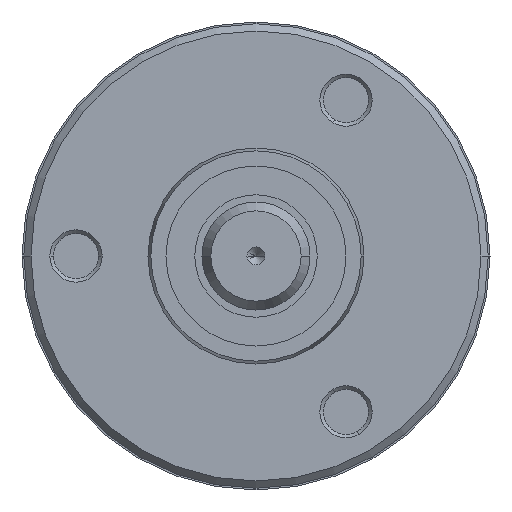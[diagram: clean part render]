
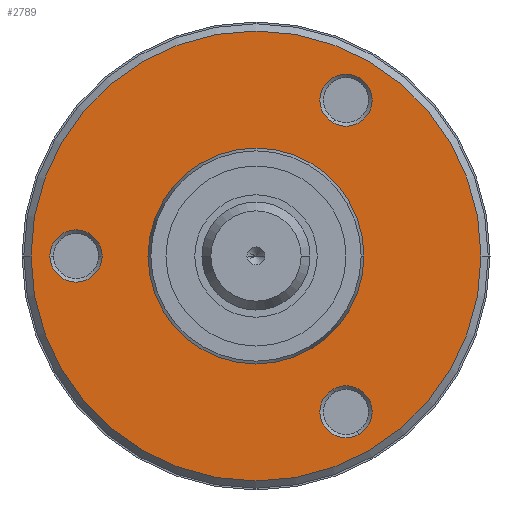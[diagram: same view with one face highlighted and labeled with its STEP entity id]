
A CAD part, left-side view. The second image highlights one B-rep face of the part: STEP entity #2789.
In plain terms, the highlighted planar face has unit normal (-1, 0, 0).
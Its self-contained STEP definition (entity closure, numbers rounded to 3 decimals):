
#630=CARTESIAN_POINT('',(0.,0.,0.));
#631=DIRECTION('',(-1.,0.,0.));
#632=DIRECTION('',(0.,1.,0.));
#633=AXIS2_PLACEMENT_3D('',#630,#631,#632);
#638=CARTESIAN_POINT('',(0.,0.,0.));
#639=DIRECTION('',(-1.,0.,0.));
#640=DIRECTION('',(0.,-1.,0.));
#641=AXIS2_PLACEMENT_3D('',#638,#639,#640);
#646=CARTESIAN_POINT('',(0.,5.,0.));
#647=DIRECTION('',(-1.,0.,0.));
#648=DIRECTION('',(0.,1.,0.));
#649=AXIS2_PLACEMENT_3D('',#646,#647,#648);
#654=CARTESIAN_POINT('',(0.,5.,0.));
#655=DIRECTION('',(-1.,0.,0.));
#656=DIRECTION('',(0.,-1.,0.));
#657=AXIS2_PLACEMENT_3D('',#654,#655,#656);
#662=CARTESIAN_POINT('',(0.,-2.5,4.33));
#663=DIRECTION('',(-1.,0.,0.));
#664=DIRECTION('',(0.,-0.5,0.866));
#665=AXIS2_PLACEMENT_3D('',#662,#663,#664);
#670=CARTESIAN_POINT('',(0.,-2.5,4.33));
#671=DIRECTION('',(-1.,0.,0.));
#672=DIRECTION('',(0.,0.5,-0.866));
#673=AXIS2_PLACEMENT_3D('',#670,#671,#672);
#678=CARTESIAN_POINT('',(0.,-2.5,-4.33));
#679=DIRECTION('',(-1.,0.,0.));
#680=DIRECTION('',(0.,-0.5,-0.866));
#681=AXIS2_PLACEMENT_3D('',#678,#679,#680);
#686=CARTESIAN_POINT('',(0.,-2.5,-4.33));
#687=DIRECTION('',(-1.,0.,0.));
#688=DIRECTION('',(0.,0.5,0.866));
#689=AXIS2_PLACEMENT_3D('',#686,#687,#688);
#709=CARTESIAN_POINT('',(0.,0.,0.));
#710=DIRECTION('',(-1.,0.,0.));
#711=DIRECTION('',(0.,1.,0.));
#712=AXIS2_PLACEMENT_3D('',#709,#710,#711);
#778=CARTESIAN_POINT('',(0.,0.,0.));
#779=DIRECTION('',(1.,0.,0.));
#780=DIRECTION('',(0.,1.,0.));
#781=AXIS2_PLACEMENT_3D('',#778,#779,#780);
#1954=CARTESIAN_POINT('',(0.,3.,0.));
#1955=CARTESIAN_POINT('',(0.,-3.,0.));
#1956=VERTEX_POINT('',#1954);
#1957=VERTEX_POINT('',#1955);
#1966=CARTESIAN_POINT('',(0.,5.725,0.));
#1967=CARTESIAN_POINT('',(0.,4.275,0.));
#1968=VERTEX_POINT('',#1966);
#1969=VERTEX_POINT('',#1967);
#1974=CARTESIAN_POINT('',(0.,-2.863,4.958));
#1975=CARTESIAN_POINT('',(0.,-2.138,3.702));
#1976=VERTEX_POINT('',#1974);
#1977=VERTEX_POINT('',#1975);
#1982=CARTESIAN_POINT('',(0.,-2.863,-4.958));
#1983=CARTESIAN_POINT('',(0.,-2.138,-3.702));
#1984=VERTEX_POINT('',#1982);
#1985=VERTEX_POINT('',#1983);
#1994=CARTESIAN_POINT('',(0.,6.25,0.));
#1995=CARTESIAN_POINT('',(0.,-6.25,0.));
#1996=VERTEX_POINT('',#1994);
#1997=VERTEX_POINT('',#1995);
#2755=CARTESIAN_POINT('',(0.,0.,0.));
#2756=DIRECTION('',(-1.,0.,0.));
#2757=DIRECTION('',(0.,1.,0.));
#2758=AXIS2_PLACEMENT_3D('',#2755,#2756,#2757);
#2759=PLANE('',#2758);
#2761=ORIENTED_EDGE('',*,*,#2760,.F.);
#2762=ORIENTED_EDGE('',*,*,#2745,.F.);
#2763=EDGE_LOOP('',(#2761,#2762));
#2764=FACE_OUTER_BOUND('',#2763,.F.);
#2766=ORIENTED_EDGE('',*,*,#2765,.T.);
#2768=ORIENTED_EDGE('',*,*,#2767,.F.);
#2769=EDGE_LOOP('',(#2766,#2768));
#2770=FACE_BOUND('',#2769,.F.);
#2772=ORIENTED_EDGE('',*,*,#2771,.T.);
#2774=ORIENTED_EDGE('',*,*,#2773,.T.);
#2775=EDGE_LOOP('',(#2772,#2774));
#2776=FACE_BOUND('',#2775,.F.);
#2778=ORIENTED_EDGE('',*,*,#2777,.T.);
#2780=ORIENTED_EDGE('',*,*,#2779,.T.);
#2781=EDGE_LOOP('',(#2778,#2780));
#2782=FACE_BOUND('',#2781,.F.);
#2784=ORIENTED_EDGE('',*,*,#2783,.T.);
#2786=ORIENTED_EDGE('',*,*,#2785,.T.);
#2787=EDGE_LOOP('',(#2784,#2786));
#2788=FACE_BOUND('',#2787,.F.);
#2789=ADVANCED_FACE('',(#2764,#2770,#2776,#2782,#2788),#2759,.T.);
#634=CIRCLE('',#633,6.25);
#642=CIRCLE('',#641,6.25);
#650=CIRCLE('',#649,0.725);
#658=CIRCLE('',#657,0.725);
#666=CIRCLE('',#665,0.725);
#674=CIRCLE('',#673,0.725);
#682=CIRCLE('',#681,0.725);
#690=CIRCLE('',#689,0.725);
#713=CIRCLE('',#712,3.);
#782=CIRCLE('',#781,3.);
#2745=EDGE_CURVE('',#1997,#1996,#642,.T.);
#2760=EDGE_CURVE('',#1996,#1997,#634,.T.);
#2765=EDGE_CURVE('',#1956,#1957,#713,.T.);
#2767=EDGE_CURVE('',#1956,#1957,#782,.T.);
#2771=EDGE_CURVE('',#1968,#1969,#650,.T.);
#2773=EDGE_CURVE('',#1969,#1968,#658,.T.);
#2777=EDGE_CURVE('',#1976,#1977,#666,.T.);
#2779=EDGE_CURVE('',#1977,#1976,#674,.T.);
#2783=EDGE_CURVE('',#1984,#1985,#682,.T.);
#2785=EDGE_CURVE('',#1985,#1984,#690,.T.);
